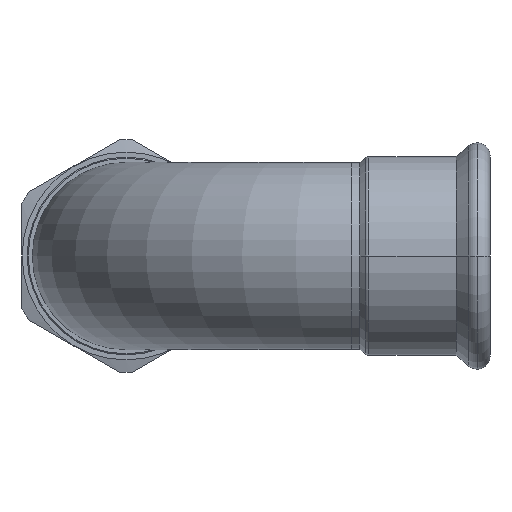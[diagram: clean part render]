
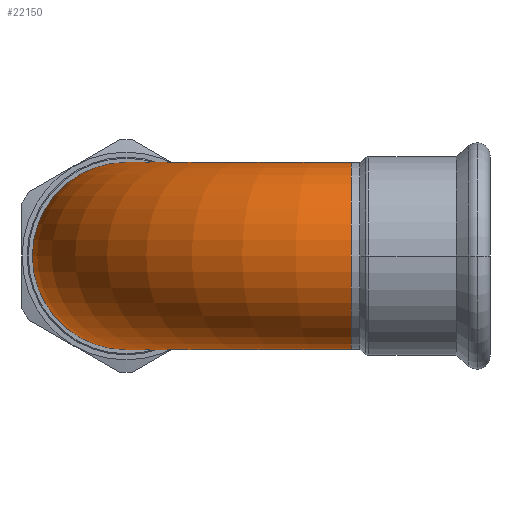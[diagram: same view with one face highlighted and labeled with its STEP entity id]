
A CAD part, left-side view. The second image highlights one B-rep face of the part: STEP entity #22150.
In plain terms, the highlighted toroidal (fillet/blend) face has major radius 65 mm and minor radius 27 mm.
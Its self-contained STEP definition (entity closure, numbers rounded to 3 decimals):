
#18280=CARTESIAN_POINT('',(-102.071,-781.257,
0.));
#18290=DIRECTION('',(0.,0.,1.));
#18300=DIRECTION('',(0.,1.,0.));
#18310=AXIS2_PLACEMENT_3D('',#18280,#18290,#18300);
#18320=TOROIDAL_SURFACE('',#18310,65.,27.);
#18330=CARTESIAN_POINT('',(-102.071,-781.257,27.));
#18340=DIRECTION('',(0.,0.,1.));
#18350=DIRECTION('',(0.,1.,0.));
#18360=AXIS2_PLACEMENT_3D('',#18330,#18340,#18350);
#18370=CIRCLE('',#18360,65.);
#18380=CARTESIAN_POINT('',(-102.071,-716.257,27.));
#18390=VERTEX_POINT('',#18380);
#18400=CARTESIAN_POINT('',(-167.071,-781.257,27.));
#18410=VERTEX_POINT('',#18400);
#18420=EDGE_CURVE('',#18390,#18410,#18370,.T.);
#18490=CARTESIAN_POINT('',(-102.071,-716.257,-27.));
#18500=VERTEX_POINT('',#18490);
#18530=CARTESIAN_POINT('',(-102.071,-781.257,-27.));
#18540=DIRECTION('',(0.,0.,1.));
#18550=DIRECTION('',(0.,1.,0.));
#18560=AXIS2_PLACEMENT_3D('',#18530,#18540,#18550);
#18570=CIRCLE('',#18560,65.);
#18580=CARTESIAN_POINT('',(-167.071,-781.257,-27.));
#18590=VERTEX_POINT('',#18580);
#18600=EDGE_CURVE('',#18500,#18590,#18570,.T.);
#18620=CARTESIAN_POINT('',(-167.071,-781.257,
0.));
#18630=DIRECTION('',(0.,-1.,0.));
#18640=DIRECTION('',(0.,0.,1.));
#18650=AXIS2_PLACEMENT_3D('',#18620,#18630,#18640);
#18660=CIRCLE('',#18650,27.);
#21930=EDGE_CURVE('',#18410,#18590,#18660,.T.);
#22030=ORIENTED_EDGE('',*,*,#21930,.F.);
#22040=ORIENTED_EDGE('',*,*,#18600,.T.);
#22050=CARTESIAN_POINT('',(-102.071,-716.257,
0.));
#22060=DIRECTION('',(-1.,0.,0.));
#22070=DIRECTION('',(0.,0.,1.));
#22080=AXIS2_PLACEMENT_3D('',#22050,#22060,#22070);
#22090=CIRCLE('',#22080,27.);
#22100=EDGE_CURVE('',#18390,#18500,#22090,.T.);
#22110=ORIENTED_EDGE('',*,*,#22100,.T.);
#22120=ORIENTED_EDGE('',*,*,#18420,.F.);
#22130=EDGE_LOOP('',(#22120,#22110,#22040,#22030));
#22140=FACE_OUTER_BOUND('',#22130,.T.);
#22150=ADVANCED_FACE('',(#22140),#18320,.T.);
